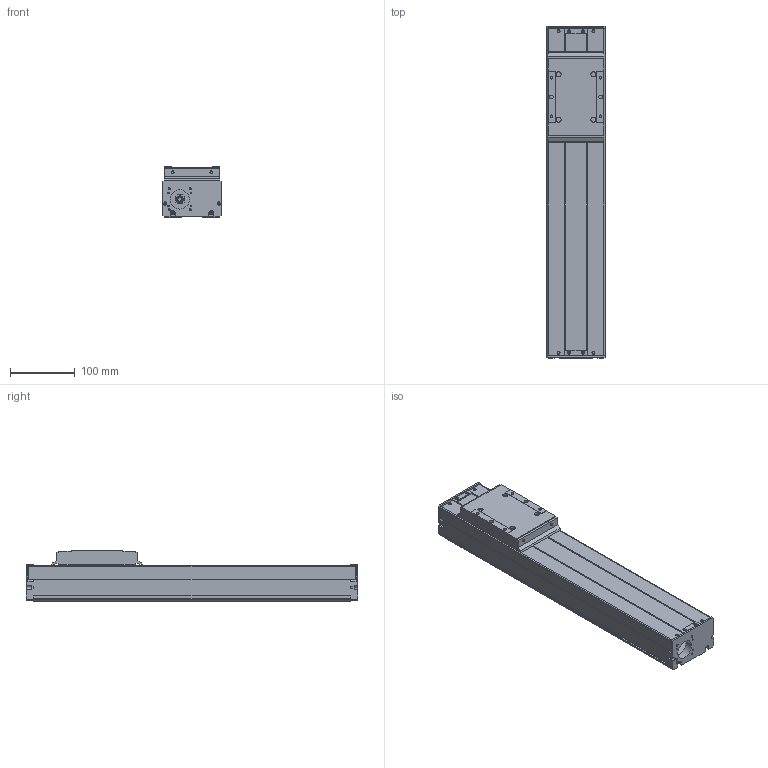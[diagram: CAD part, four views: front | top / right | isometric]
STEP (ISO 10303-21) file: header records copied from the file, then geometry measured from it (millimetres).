
FILE_DESCRIPTION (( 'STEP AP214' ), '1' );
FILE_NAME ('HZMotion TKS90-250A1F0.STEP', '2021-09-15T10:33:38', ( 'AutoBVT' ), ( 'Microsoft' ), 'SwSTEP 2.0', 'SolidWorks 2020', '' );
FILE_SCHEMA (( 'AUTOMOTIVE_DESIGN' ));
Length unit declared in the file: millimetre
Products named in the file (3): HZMotion TKS90-250A1F0; A1F0-250-1; 250-2
Assembly tree (2 placements, depth 2):
  HZMotion TKS90-250A1F0
    250-2
    A1F0-250-1
Bounding box: 90 x 514 x 78 mm (x, y, z)
Volume: 1047765.1 mm3; surface area: 376491.2 mm2
Topology: 2 solids, 6 shells, 515 faces, 1337 edges, 862 vertices
Faces by surface type: plane 268, cylinder 211, cone 32, torus 4
Entity records: 15839 total; most frequent: DIRECTION 2807, CARTESIAN_POINT 2695, ORIENTED_EDGE 2626, EDGE_CURVE 1313, AXIS2_PLACEMENT_3D 974, VERTEX_POINT 862, VECTOR 859, LINE 859
